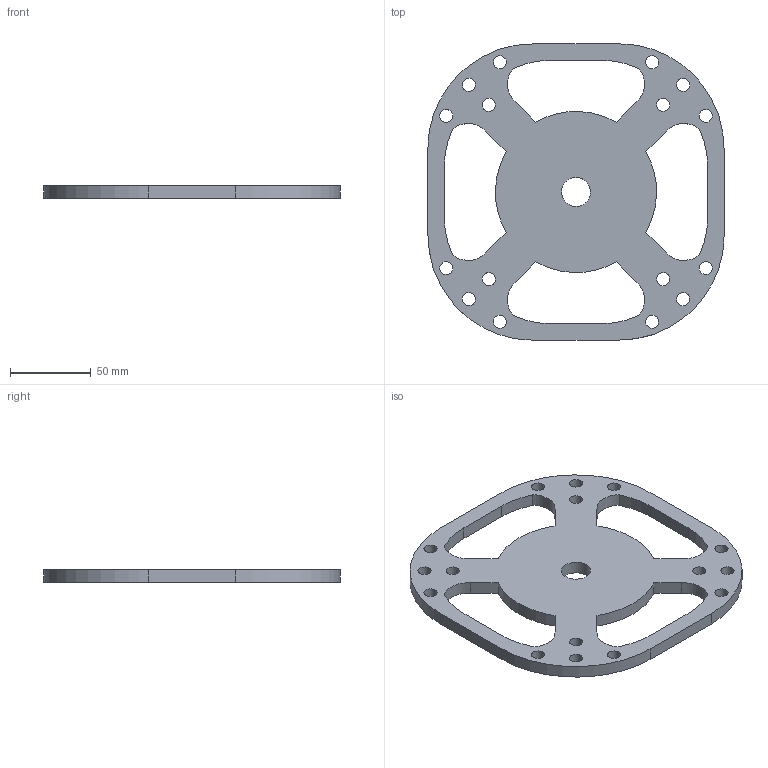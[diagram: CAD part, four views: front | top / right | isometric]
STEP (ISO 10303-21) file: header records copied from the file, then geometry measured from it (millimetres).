
FILE_DESCRIPTION ((), '1');
FILE_NAME ('C:\Users\tprototype\Desktop\TeslaGen Project\TeslaGen-v1\CNC Parts\Endplate\CAD File\Endplates-Blank.stp', '2016-05-20T19:09:12', ('Unknown'), ('Unknown'), 'HarmonyWare STEP v1.7.11', 'HarmonyWare Translators', '');
FILE_SCHEMA (('CONFIG_CONTROL_DESIGN'));
Length unit declared in the file: millimetre
Products named in the file (1): product-name
Bounding box: 183.71 x 183.71 x 8 mm (x, y, z)
Volume: 149795.9 mm3; surface area: 52953.7 mm2
Topology: 1 solids, 1 shells, 59 faces, 171 edges, 114 vertices
Faces by surface type: bspline 59
Entity records: 2599 total; most frequent: CARTESIAN_POINT 1456, ORIENTED_EDGE 342, EDGE_CURVE 171, B_SPLINE_CURVE_WITH_KNOTS 120, VERTEX_POINT 114, EDGE_LOOP 101, FACE_OUTER_BOUND 59, ADVANCED_FACE 59
